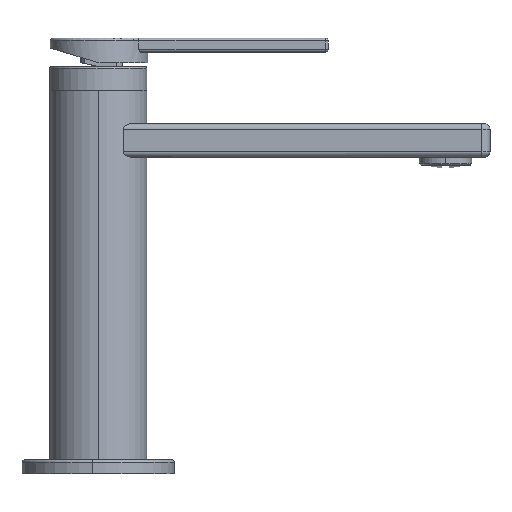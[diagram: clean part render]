
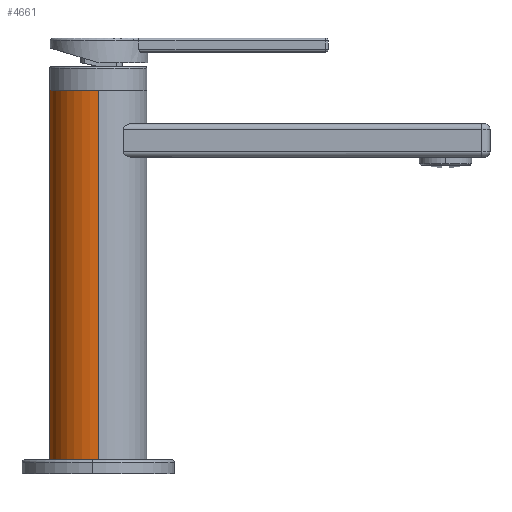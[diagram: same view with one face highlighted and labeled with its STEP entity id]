
A CAD part, left-side view. The second image highlights one B-rep face of the part: STEP entity #4661.
In plain terms, the highlighted cylindrical face has radius 17.5 mm (diameter 35 mm), a partial arc.
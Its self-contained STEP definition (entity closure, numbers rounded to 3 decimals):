
#183 = CARTESIAN_POINT ( 'NONE',  ( 0., 0., 63. ) ) ;
#269 = DIRECTION ( 'NONE',  ( 1., 0., 0. ) ) ;
#299 = DIRECTION ( 'NONE',  ( 0., 0., -1. ) ) ;
#620 = ORIENTED_EDGE ( 'NONE', *, *, #15689, .T. ) ;
#1650 = CARTESIAN_POINT ( 'NONE',  ( 17.5, 0., -70. ) ) ;
#1851 = CARTESIAN_POINT ( 'NONE',  ( -17.5, 0., -70. ) ) ;
#1983 = DIRECTION ( 'NONE',  ( 0., 0., 1. ) ) ;
#2779 = CARTESIAN_POINT ( 'NONE',  ( 17.5, 0., 63. ) ) ;
#3488 = LINE ( 'NONE', #15860, #11158 ) ;
#4661 = ADVANCED_FACE ( 'NONE', ( #16892 ), #7768, .T. ) ;
#4814 = DIRECTION ( 'NONE',  ( 0., 0., 1. ) ) ;
#5086 = VERTEX_POINT ( 'NONE', #1851 ) ;
#6242 = AXIS2_PLACEMENT_3D ( 'NONE', #7899, #299, #15605 ) ;
#6442 = DIRECTION ( 'NONE',  ( 0., 0., -1. ) ) ;
#7032 = VERTEX_POINT ( 'NONE', #19840 ) ;
#7768 = CYLINDRICAL_SURFACE ( 'NONE', #14369, 17.5 ) ;
#7899 = CARTESIAN_POINT ( 'NONE',  ( 0., 0., -70. ) ) ;
#8087 = AXIS2_PLACEMENT_3D ( 'NONE', #183, #6442, #269 ) ;
#8967 = ORIENTED_EDGE ( 'NONE', *, *, #18103, .F. ) ;
#9303 = VERTEX_POINT ( 'NONE', #2779 ) ;
#9382 = CARTESIAN_POINT ( 'NONE',  ( -17.5, 0., 32.5 ) ) ;
#9462 = EDGE_CURVE ( 'NONE', #17691, #9303, #3488, .T. ) ;
#11158 = VECTOR ( 'NONE', #1983, 1000. ) ;
#11584 = VECTOR ( 'NONE', #15827, 1000. ) ;
#12697 = LINE ( 'NONE', #9382, #11584 ) ;
#12863 = EDGE_CURVE ( 'NONE', #5086, #7032, #12697, .T. ) ;
#13374 = CIRCLE ( 'NONE', #6242, 17.5 ) ;
#13935 = CIRCLE ( 'NONE', #8087, 17.5 ) ;
#14369 = AXIS2_PLACEMENT_3D ( 'NONE', #18704, #4814, #17182 ) ;
#15605 = DIRECTION ( 'NONE',  ( -1., 0., 0. ) ) ;
#15689 = EDGE_CURVE ( 'NONE', #7032, #9303, #13935, .T. ) ;
#15827 = DIRECTION ( 'NONE',  ( 0., 0., 1. ) ) ;
#15860 = CARTESIAN_POINT ( 'NONE',  ( 17.5, 0., 32.5 ) ) ;
#15960 = ORIENTED_EDGE ( 'NONE', *, *, #12863, .T. ) ;
#16892 = FACE_OUTER_BOUND ( 'NONE', #17811, .T. ) ;
#17182 = DIRECTION ( 'NONE',  ( 1., 0., 0. ) ) ;
#17656 = ORIENTED_EDGE ( 'NONE', *, *, #9462, .F. ) ;
#17691 = VERTEX_POINT ( 'NONE', #1650 ) ;
#17811 = EDGE_LOOP ( 'NONE', ( #8967, #15960, #620, #17656 ) ) ;
#18103 = EDGE_CURVE ( 'NONE', #5086, #17691, #13374, .T. ) ;
#18704 = CARTESIAN_POINT ( 'NONE',  ( 0., 0., 32.5 ) ) ;
#19840 = CARTESIAN_POINT ( 'NONE',  ( -17.5, 0., 63. ) ) ;
